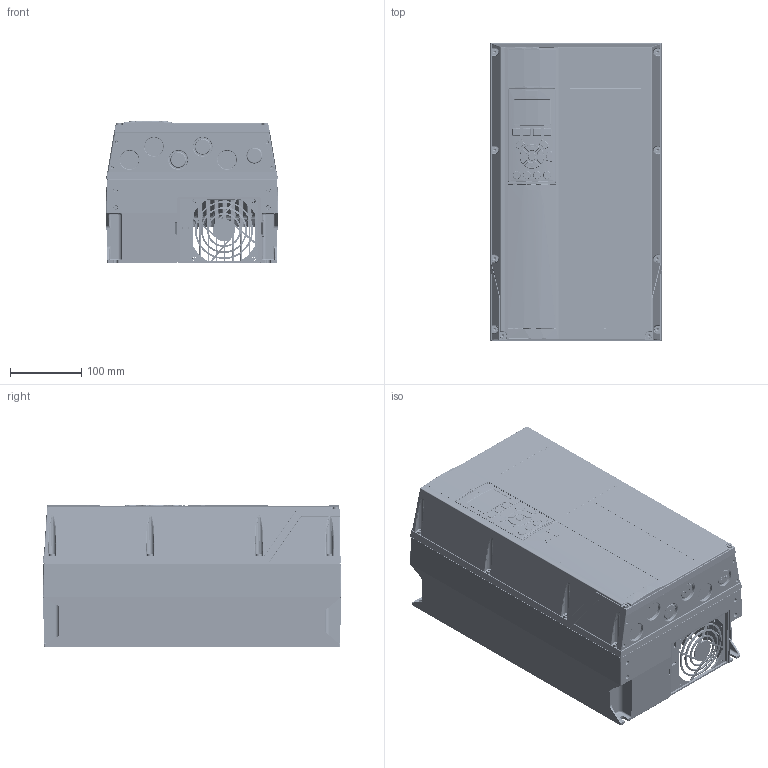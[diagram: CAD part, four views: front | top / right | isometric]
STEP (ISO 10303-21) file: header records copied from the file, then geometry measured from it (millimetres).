
FILE_DESCRIPTION((''),'2;1');
FILE_NAME('DANFOSS-FC-100-A5','2011-10-20T',('cstephenkumar'),('Be-Atch INC. 1993'),'PRO/ENGINEER BY PARAMETRIC TECHNOLOGY CORPORATION, 2009360','PRO/ENGINEER BY PARAMETRIC TECHNOLOGY CORPORATION, 2009360','');
FILE_SCHEMA(('AUTOMOTIVE_DESIGN { 1 0 10303 214 1 1 1 1 }'));
Products named in the file (1): DANFOSS-FC-100-A5
Bounding box: 242 x 420.2 x 201.24 mm (x, y, z)
Volume: 13675155.7 mm3; surface area: 1514820.6 mm2
Topology: 1 solids, 40 shells, 7014 faces, 17791 edges, 10955 vertices
Faces by surface type: plane 2525, cylinder 1937, bspline 1691, torus 297, cone 268, sphere 169, extrusion 127
Entity records: 382817 total; most frequent: CARTESIAN_POINT 227391, ORIENTED_EDGE 35538, DIRECTION 27218, EDGE_CURVE 17769, VERTEX_POINT 10955, AXIS2_PLACEMENT_3D 9290, VECTOR 8638, LINE 8511
